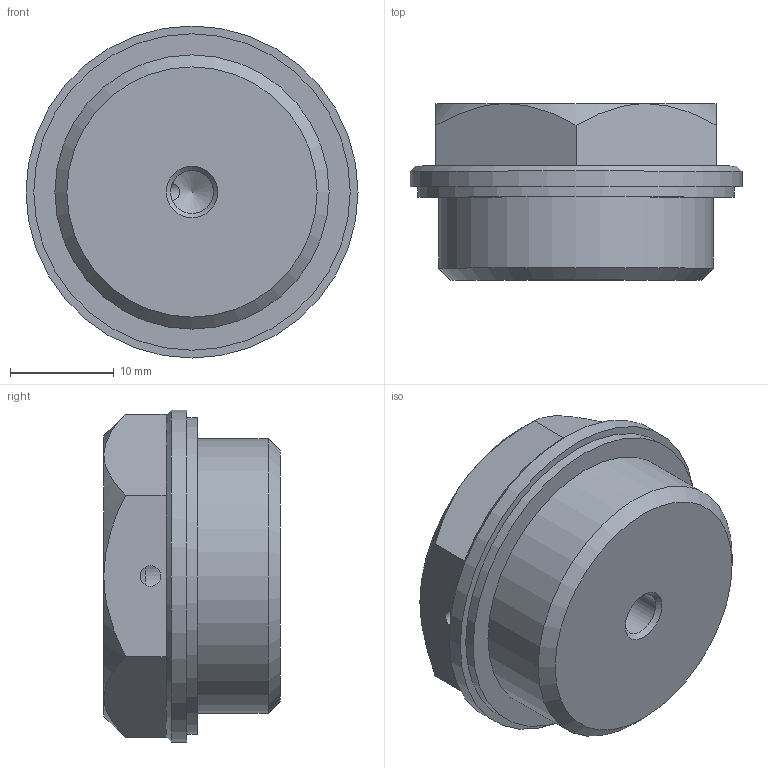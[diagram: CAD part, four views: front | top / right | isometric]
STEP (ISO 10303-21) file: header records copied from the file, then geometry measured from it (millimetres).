
FILE_DESCRIPTION( ( 'STEP AP203' ), '1' );
FILE_NAME( 'C:/Temp/Ganter_Step_05_03_2020/data/3_5/gn742/gn742_2/Threaded plug GN 742-32-G3_4-ES-2.stp', '2020-03-12T13:39:32', ( 'License CC BY-ND 4.0' ), ( 'CADENAS' ), ' ', 'PARTsolutions', ' ' );
FILE_SCHEMA( ( 'CONFIG_CONTROL_DESIGN' ) );
Length unit declared in the file: millimetre
Products named in the file (1): _Threaded plug GN 742-32-G3/4-ES-2
Bounding box: 32 x 17 x 32 mm (x, y, z)
Volume: 10196.7 mm3; surface area: 3237.5 mm2
Topology: 1 solids, 1 shells, 64 faces, 155 edges, 96 vertices
Faces by surface type: plane 49, cone 10, cylinder 5
Full cylindrical faces by diameter (mm): 2 x1, 4.134 x1, 26.441 x1, 30.5 x1, 32 x1
Entity records: 1901 total; most frequent: CARTESIAN_POINT 426, DIRECTION 287, ORIENTED_EDGE 284, EDGE_CURVE 142, LINE 99, VECTOR 99, AXIS2_PLACEMENT_3D 94, VERTEX_POINT 93
